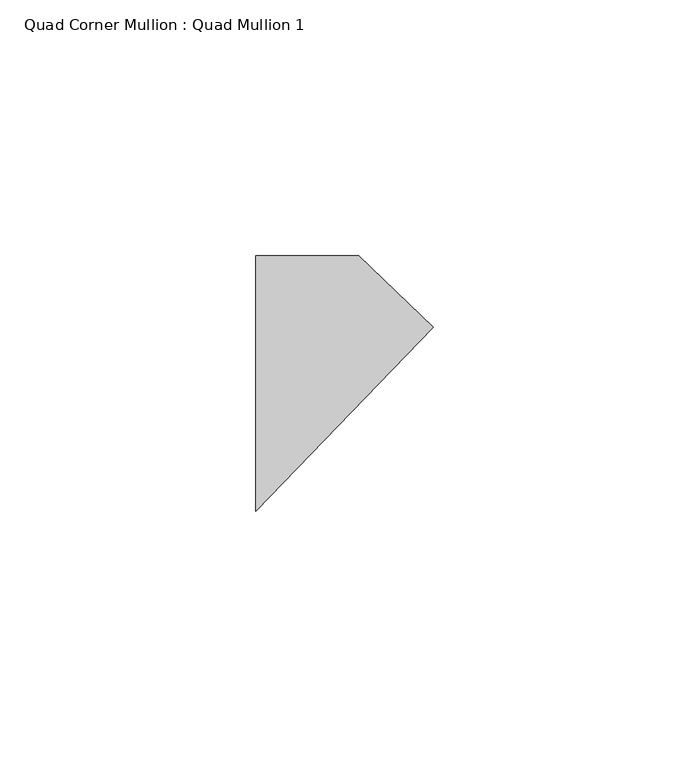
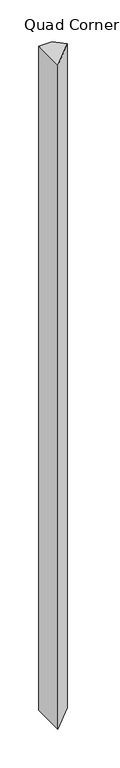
"""IFC4 building model written with IfcOpenShell, lengths in millimetres: member geometry, Quad Corner Mullion : Quad Mullion 1."""

from ifc_helpers import new_model, si_unit, frame, origin, place, context, project, spatial, polyline, outline, extrude, source, transform, mapped, element, save


def quad_corner_mullion_quad_mullion_1_6c9fdb88(model_context):
    return source(origin(), model_context, "Body", "SweptSolid", [
        extrude(outline(polyline([(24.6322629, 10.96699), (-10.1006556, -25.0), (-10.1006556, 25.0), (10.1006556, 25.0), (24.6322629, 10.96699)])), frame((0.0, 0.0, -1050.0), z_axis=(0.0, 0.0, 1.0), x_axis=(1.0, 0.0, 0.0)), (0.0, 0.0, 1.0), 1050.0),
    ])


if __name__ == "__main__":
    model = new_model("IFC4")
    model_context = context("Model", 3, world=origin())
    ifc_project = project(units=[si_unit("LENGTHUNIT", "METRE", prefix="MILLI")], contexts=[model_context])
    site = spatial("IfcSite", under=ifc_project)
    building = spatial("IfcBuilding", under=site)
    placement = place(None, origin())
    quad_corner_mullion_quad_mullion_1_shape = quad_corner_mullion_quad_mullion_1_6c9fdb88(model_context)
    element("IfcMember", 1, ObjectType="Quad Corner Mullion : Quad Mullion 1", at=placement, inside=building, context=model_context, shape_type="MappedRepresentation", body=[
        mapped(quad_corner_mullion_quad_mullion_1_shape, transform((0.0, 0.0, 0.0), x_axis=(1.0, 0.0, 0.0), y_axis=(0.0, 1.0, 0.0), z_axis=(0.0, 0.0, 1.0))),
    ])
    save(model, "model.ifc")
